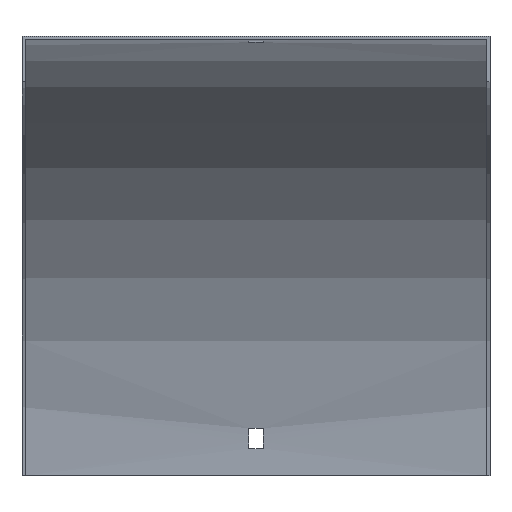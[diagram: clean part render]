
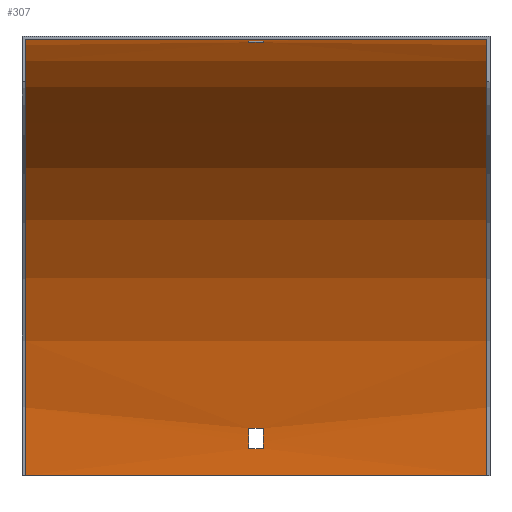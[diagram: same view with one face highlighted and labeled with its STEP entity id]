
A CAD part, top view. The second image highlights one B-rep face of the part: STEP entity #307.
In plain terms, the highlighted cylindrical face has radius 192.5 mm (diameter 385 mm), a partial arc.
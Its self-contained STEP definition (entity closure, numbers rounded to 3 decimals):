
#13 = EDGE_CURVE ( 'NONE', #449, #205, #448, .T. ) ;
#15 = DIRECTION ( 'NONE',  ( 0., 0., 1. ) ) ;
#43 = DIRECTION ( 'NONE',  ( 1., 0., 0. ) ) ;
#48 = CARTESIAN_POINT ( 'NONE',  ( 3.25, -2.649, -21. ) ) ;
#58 = CARTESIAN_POINT ( 'NONE',  ( -102., -194., -192.5 ) ) ;
#62 = CYLINDRICAL_SURFACE ( 'NONE', #261, 192.5 ) ;
#63 = LINE ( 'NONE', #149, #119 ) ;
#65 = DIRECTION ( 'NONE',  ( -1., 0., 0. ) ) ;
#69 = CIRCLE ( 'NONE', #282, 192.5 ) ;
#76 = CIRCLE ( 'NONE', #157, 192.5 ) ;
#96 = DIRECTION ( 'NONE',  ( -1., 0., 0. ) ) ;
#97 = VECTOR ( 'NONE', #481, 1000. ) ;
#101 = CARTESIAN_POINT ( 'NONE',  ( 3.25, -194., 0. ) ) ;
#103 = ORIENTED_EDGE ( 'NONE', *, *, #545, .T. ) ;
#117 = EDGE_LOOP ( 'NONE', ( #493, #496, #103, #358 ) ) ;
#119 = VECTOR ( 'NONE', #192, 1000. ) ;
#126 = ORIENTED_EDGE ( 'NONE', *, *, #361, .T. ) ;
#141 = ORIENTED_EDGE ( 'NONE', *, *, #533, .T. ) ;
#143 = DIRECTION ( 'NONE',  ( 0., 0., -1. ) ) ;
#149 = CARTESIAN_POINT ( 'NONE',  ( 103.5, -1.874, -12. ) ) ;
#153 = ORIENTED_EDGE ( 'NONE', *, *, #477, .F. ) ;
#157 = AXIS2_PLACEMENT_3D ( 'NONE', #101, #478, #563 ) ;
#159 = DIRECTION ( 'NONE',  ( 1., 0., 0. ) ) ;
#161 = VERTEX_POINT ( 'NONE', #369 ) ;
#173 = LINE ( 'NONE', #322, #221 ) ;
#185 = CIRCLE ( 'NONE', #509, 192.5 ) ;
#192 = DIRECTION ( 'NONE',  ( -1., 0., 0. ) ) ;
#194 = CIRCLE ( 'NONE', #603, 192.5 ) ;
#197 = CARTESIAN_POINT ( 'NONE',  ( 3.25, -173., -191.351 ) ) ;
#198 = VERTEX_POINT ( 'NONE', #568 ) ;
#199 = FACE_OUTER_BOUND ( 'NONE', #117, .T. ) ;
#205 = VERTEX_POINT ( 'NONE', #48 ) ;
#208 = CARTESIAN_POINT ( 'NONE',  ( -3.25, -194., 0. ) ) ;
#210 = EDGE_LOOP ( 'NONE', ( #240, #126, #141, #512 ) ) ;
#211 = EDGE_CURVE ( 'NONE', #205, #441, #244, .T. ) ;
#221 = VECTOR ( 'NONE', #365, 1000. ) ;
#227 = VERTEX_POINT ( 'NONE', #438 ) ;
#228 = EDGE_CURVE ( 'NONE', #518, #306, #474, .T. ) ;
#230 = DIRECTION ( 'NONE',  ( 0., 0., -1. ) ) ;
#239 = CARTESIAN_POINT ( 'NONE',  ( 103.5, -173., -191.351 ) ) ;
#240 = ORIENTED_EDGE ( 'NONE', *, *, #344, .T. ) ;
#244 = CIRCLE ( 'NONE', #257, 192.5 ) ;
#247 = FACE_BOUND ( 'NONE', #476, .T. ) ;
#252 = DIRECTION ( 'NONE',  ( 1., 0., 0. ) ) ;
#255 = DIRECTION ( 'NONE',  ( 0., 0., 1. ) ) ;
#257 = AXIS2_PLACEMENT_3D ( 'NONE', #530, #159, #143 ) ;
#261 = AXIS2_PLACEMENT_3D ( 'NONE', #442, #65, #255 ) ;
#262 = EDGE_CURVE ( 'NONE', #490, #368, #76, .T. ) ;
#267 = CARTESIAN_POINT ( 'NONE',  ( 3.25, -182., -192.126 ) ) ;
#271 = DIRECTION ( 'NONE',  ( 0., 0., 1. ) ) ;
#282 = AXIS2_PLACEMENT_3D ( 'NONE', #561, #417, #271 ) ;
#283 = CARTESIAN_POINT ( 'NONE',  ( -3.25, -182., -192.126 ) ) ;
#292 = VECTOR ( 'NONE', #96, 1000. ) ;
#306 = VERTEX_POINT ( 'NONE', #58 ) ;
#307 = ADVANCED_FACE ( 'NONE', ( #247, #199, #387 ), #62, .F. ) ;
#322 = CARTESIAN_POINT ( 'NONE',  ( 102., -1.5, 0. ) ) ;
#326 = EDGE_CURVE ( 'NONE', #198, #449, #194, .T. ) ;
#340 = DIRECTION ( 'NONE',  ( 1., 0., 0. ) ) ;
#344 = EDGE_CURVE ( 'NONE', #368, #570, #515, .T. ) ;
#358 = ORIENTED_EDGE ( 'NONE', *, *, #466, .T. ) ;
#361 = EDGE_CURVE ( 'NONE', #570, #227, #446, .T. ) ;
#365 = DIRECTION ( 'NONE',  ( -1., 0., 0. ) ) ;
#368 = VERTEX_POINT ( 'NONE', #267 ) ;
#369 = CARTESIAN_POINT ( 'NONE',  ( -102., -1.5, 0. ) ) ;
#370 = CARTESIAN_POINT ( 'NONE',  ( -3.25, -2.649, -21. ) ) ;
#374 = CARTESIAN_POINT ( 'NONE',  ( 103.5, -182., -192.126 ) ) ;
#377 = ORIENTED_EDGE ( 'NONE', *, *, #326, .F. ) ;
#382 = ORIENTED_EDGE ( 'NONE', *, *, #13, .F. ) ;
#387 = FACE_BOUND ( 'NONE', #210, .T. ) ;
#391 = CARTESIAN_POINT ( 'NONE',  ( 102., -194., 0. ) ) ;
#394 = DIRECTION ( 'NONE',  ( 0., 0., 1. ) ) ;
#402 = EDGE_CURVE ( 'NONE', #306, #161, #69, .T. ) ;
#406 = VECTOR ( 'NONE', #552, 1000. ) ;
#417 = DIRECTION ( 'NONE',  ( 1., 0., 0. ) ) ;
#426 = CARTESIAN_POINT ( 'NONE',  ( 102., -194., -192.5 ) ) ;
#428 = CARTESIAN_POINT ( 'NONE',  ( 102., -194., -192.5 ) ) ;
#438 = CARTESIAN_POINT ( 'NONE',  ( -3.25, -173., -191.351 ) ) ;
#441 = VERTEX_POINT ( 'NONE', #592 ) ;
#442 = CARTESIAN_POINT ( 'NONE',  ( 103.5, -194., 0. ) ) ;
#446 = CIRCLE ( 'NONE', #593, 192.5 ) ;
#448 = LINE ( 'NONE', #467, #406 ) ;
#449 = VERTEX_POINT ( 'NONE', #370 ) ;
#453 = VECTOR ( 'NONE', #340, 1000. ) ;
#464 = CARTESIAN_POINT ( 'NONE',  ( -3.25, -194., 0. ) ) ;
#466 = EDGE_CURVE ( 'NONE', #546, #161, #173, .T. ) ;
#467 = CARTESIAN_POINT ( 'NONE',  ( 103.5, -2.649, -21. ) ) ;
#474 = LINE ( 'NONE', #428, #97 ) ;
#476 = EDGE_LOOP ( 'NONE', ( #377, #153, #536, #382 ) ) ;
#477 = EDGE_CURVE ( 'NONE', #441, #198, #63, .T. ) ;
#478 = DIRECTION ( 'NONE',  ( -1., 0., 0. ) ) ;
#481 = DIRECTION ( 'NONE',  ( -1., 0., 0. ) ) ;
#487 = DIRECTION ( 'NONE',  ( -1., 0., 0. ) ) ;
#490 = VERTEX_POINT ( 'NONE', #197 ) ;
#493 = ORIENTED_EDGE ( 'NONE', *, *, #402, .F. ) ;
#496 = ORIENTED_EDGE ( 'NONE', *, *, #228, .F. ) ;
#509 = AXIS2_PLACEMENT_3D ( 'NONE', #391, #252, #15 ) ;
#512 = ORIENTED_EDGE ( 'NONE', *, *, #262, .T. ) ;
#515 = LINE ( 'NONE', #374, #292 ) ;
#518 = VERTEX_POINT ( 'NONE', #426 ) ;
#530 = CARTESIAN_POINT ( 'NONE',  ( 3.25, -194., 0. ) ) ;
#531 = CARTESIAN_POINT ( 'NONE',  ( 102., -1.5, 0. ) ) ;
#533 = EDGE_CURVE ( 'NONE', #227, #490, #569, .T. ) ;
#536 = ORIENTED_EDGE ( 'NONE', *, *, #211, .F. ) ;
#545 = EDGE_CURVE ( 'NONE', #518, #546, #185, .T. ) ;
#546 = VERTEX_POINT ( 'NONE', #531 ) ;
#552 = DIRECTION ( 'NONE',  ( 1., 0., 0. ) ) ;
#561 = CARTESIAN_POINT ( 'NONE',  ( -102., -194., 0. ) ) ;
#563 = DIRECTION ( 'NONE',  ( 0., 0., 1. ) ) ;
#568 = CARTESIAN_POINT ( 'NONE',  ( -3.25, -1.874, -12. ) ) ;
#569 = LINE ( 'NONE', #239, #453 ) ;
#570 = VERTEX_POINT ( 'NONE', #283 ) ;
#592 = CARTESIAN_POINT ( 'NONE',  ( 3.25, -1.874, -12. ) ) ;
#593 = AXIS2_PLACEMENT_3D ( 'NONE', #464, #43, #230 ) ;
#603 = AXIS2_PLACEMENT_3D ( 'NONE', #208, #487, #394 ) ;
